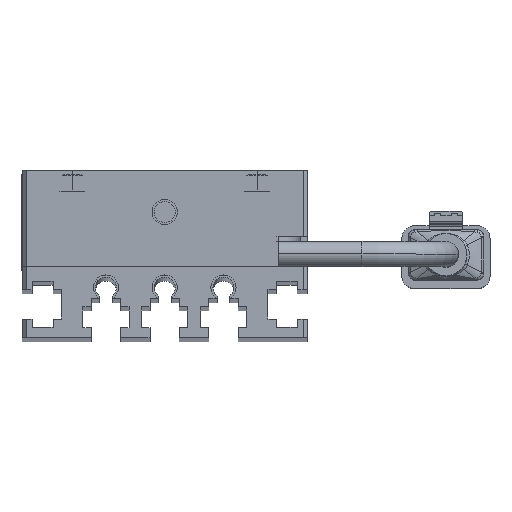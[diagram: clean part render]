
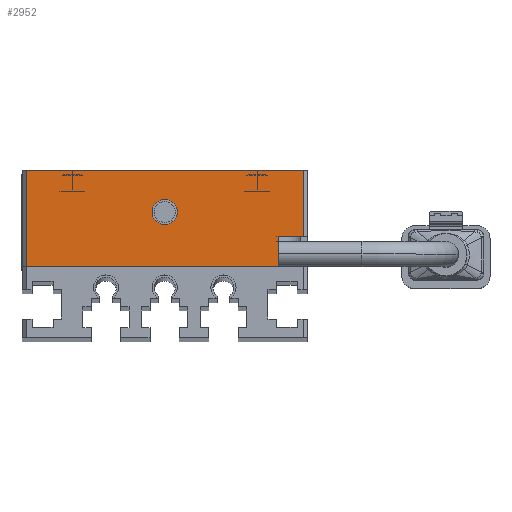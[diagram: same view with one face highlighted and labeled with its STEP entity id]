
A CAD part, top view. The second image highlights one B-rep face of the part: STEP entity #2952.
In plain terms, the highlighted planar face has unit normal (0, 0, 1) as drawn and (0, 0, -1) by its records, which use the part's own axes.
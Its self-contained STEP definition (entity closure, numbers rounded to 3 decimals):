
#38 = CIRCLE ( 'NONE', #7268, 1.5 ) ;
#183 = CARTESIAN_POINT ( 'NONE',  ( -13.5, 3., 0. ) ) ;
#298 = VECTOR ( 'NONE', #13606, 1000. ) ;
#451 = FACE_OUTER_BOUND ( 'NONE', #6996, .T. ) ;
#464 = LINE ( 'NONE', #9671, #6773 ) ;
#967 = VECTOR ( 'NONE', #2166, 1000. ) ;
#1290 = EDGE_CURVE ( 'NONE', #12605, #2016, #464, .T. ) ;
#1631 = CARTESIAN_POINT ( 'NONE',  ( -1.5, 6.5, 0. ) ) ;
#2016 = VERTEX_POINT ( 'NONE', #12869 ) ;
#2166 = DIRECTION ( 'NONE',  ( 0., -1., 0. ) ) ;
#2170 = ORIENTED_EDGE ( 'NONE', *, *, #4057, .F. ) ;
#2581 = CARTESIAN_POINT ( 'NONE',  ( 1.5, 6.5, 0. ) ) ;
#2936 = LINE ( 'NONE', #3010, #14219 ) ;
#2952 = ADVANCED_FACE ( 'NONE', ( #451, #9659 ), #3857, .T. ) ;
#3010 = CARTESIAN_POINT ( 'NONE',  ( -16.5, 3.6, 0. ) ) ;
#3223 = ORIENTED_EDGE ( 'NONE', *, *, #10269, .F. ) ;
#3508 = VERTEX_POINT ( 'NONE', #7707 ) ;
#3742 = DIRECTION ( 'NONE',  ( -1., 0., 0. ) ) ;
#3857 = PLANE ( 'NONE',  #8882 ) ;
#4057 = EDGE_CURVE ( 'NONE', #8145, #13462, #2936, .T. ) ;
#4103 = EDGE_LOOP ( 'NONE', ( #3223, #14018 ) ) ;
#4333 = CARTESIAN_POINT ( 'NONE',  ( -17., 0., 0. ) ) ;
#4552 = LINE ( 'NONE', #4333, #298 ) ;
#5059 = CARTESIAN_POINT ( 'NONE',  ( -17., 11.5, 0. ) ) ;
#5082 = EDGE_CURVE ( 'NONE', #10822, #11431, #7108, .T. ) ;
#5135 = VECTOR ( 'NONE', #7413, 1000. ) ;
#5249 = LINE ( 'NONE', #9849, #5135 ) ;
#5282 = DIRECTION ( 'NONE',  ( 1., 0., 0. ) ) ;
#5663 = EDGE_CURVE ( 'NONE', #12605, #7888, #11646, .T. ) ;
#6069 = CARTESIAN_POINT ( 'NONE',  ( 0., 6.5, 0. ) ) ;
#6140 = LINE ( 'NONE', #183, #967 ) ;
#6256 = DIRECTION ( 'NONE',  ( -1., 0., 0. ) ) ;
#6419 = CARTESIAN_POINT ( 'NONE',  ( -13.5, 3.6, 0. ) ) ;
#6566 = ORIENTED_EDGE ( 'NONE', *, *, #5663, .F. ) ;
#6773 = VECTOR ( 'NONE', #13069, 1000. ) ;
#6838 = DIRECTION ( 'NONE',  ( -1., 0., 0. ) ) ;
#6996 = EDGE_LOOP ( 'NONE', ( #8650, #2170, #12874, #6566, #10832, #14079 ) ) ;
#7108 = CIRCLE ( 'NONE', #8069, 1.5 ) ;
#7247 = DIRECTION ( 'NONE',  ( 0., 0., -1. ) ) ;
#7268 = AXIS2_PLACEMENT_3D ( 'NONE', #6069, #9394, #3742 ) ;
#7413 = DIRECTION ( 'NONE',  ( 0., 1., 0. ) ) ;
#7707 = CARTESIAN_POINT ( 'NONE',  ( -13.5, 0., 0. ) ) ;
#7888 = VERTEX_POINT ( 'NONE', #11632 ) ;
#8069 = AXIS2_PLACEMENT_3D ( 'NONE', #10305, #14910, #6838 ) ;
#8145 = VERTEX_POINT ( 'NONE', #14635 ) ;
#8650 = ORIENTED_EDGE ( 'NONE', *, *, #8679, .F. ) ;
#8679 = EDGE_CURVE ( 'NONE', #13462, #3508, #6140, .T. ) ;
#8882 = AXIS2_PLACEMENT_3D ( 'NONE', #5059, #7247, #6256 ) ;
#8983 = EDGE_CURVE ( 'NONE', #3508, #2016, #4552, .T. ) ;
#9394 = DIRECTION ( 'NONE',  ( 0., 0., -1. ) ) ;
#9659 = FACE_BOUND ( 'NONE', #4103, .T. ) ;
#9671 = CARTESIAN_POINT ( 'NONE',  ( 16.5, 0., 0. ) ) ;
#9849 = CARTESIAN_POINT ( 'NONE',  ( -16.5, 11.5, 0. ) ) ;
#10127 = EDGE_CURVE ( 'NONE', #8145, #7888, #5249, .T. ) ;
#10269 = EDGE_CURVE ( 'NONE', #11431, #10822, #38, .T. ) ;
#10305 = CARTESIAN_POINT ( 'NONE',  ( 0., 6.5, 0. ) ) ;
#10822 = VERTEX_POINT ( 'NONE', #2581 ) ;
#10832 = ORIENTED_EDGE ( 'NONE', *, *, #1290, .T. ) ;
#11431 = VERTEX_POINT ( 'NONE', #1631 ) ;
#11568 = DIRECTION ( 'NONE',  ( -1., 0., 0. ) ) ;
#11632 = CARTESIAN_POINT ( 'NONE',  ( -16.5, 11.5, 0. ) ) ;
#11646 = LINE ( 'NONE', #12782, #14239 ) ;
#12605 = VERTEX_POINT ( 'NONE', #12954 ) ;
#12782 = CARTESIAN_POINT ( 'NONE',  ( -17., 11.5, 0. ) ) ;
#12869 = CARTESIAN_POINT ( 'NONE',  ( 16.5, 0., 0. ) ) ;
#12874 = ORIENTED_EDGE ( 'NONE', *, *, #10127, .T. ) ;
#12954 = CARTESIAN_POINT ( 'NONE',  ( 16.5, 11.5, 0. ) ) ;
#13069 = DIRECTION ( 'NONE',  ( 0., -1., 0. ) ) ;
#13462 = VERTEX_POINT ( 'NONE', #6419 ) ;
#13606 = DIRECTION ( 'NONE',  ( 1., 0., 0. ) ) ;
#14018 = ORIENTED_EDGE ( 'NONE', *, *, #5082, .F. ) ;
#14079 = ORIENTED_EDGE ( 'NONE', *, *, #8983, .F. ) ;
#14219 = VECTOR ( 'NONE', #5282, 1000. ) ;
#14239 = VECTOR ( 'NONE', #11568, 1000. ) ;
#14635 = CARTESIAN_POINT ( 'NONE',  ( -16.5, 3.6, 0. ) ) ;
#14910 = DIRECTION ( 'NONE',  ( 0., 0., -1. ) ) ;
